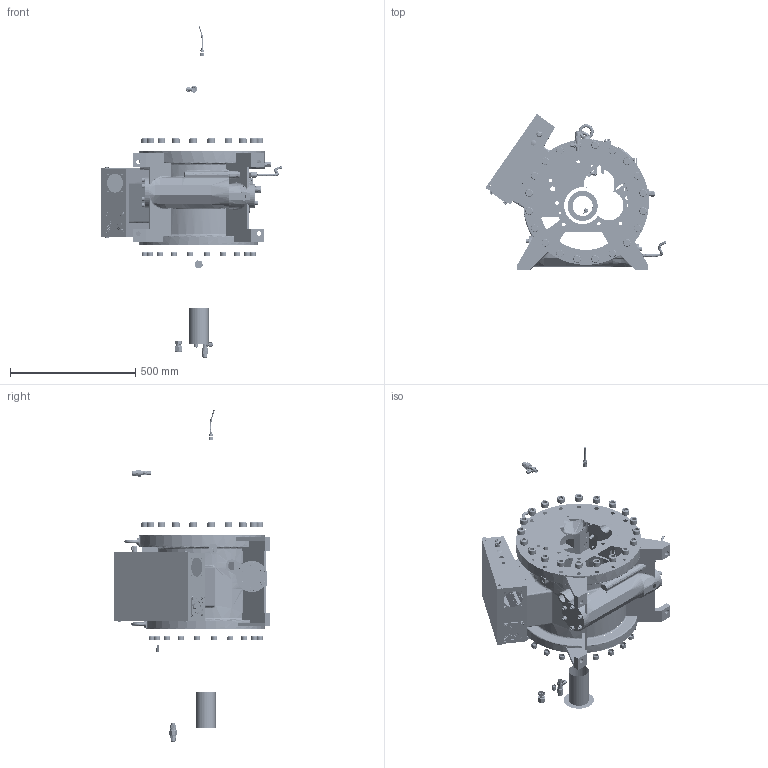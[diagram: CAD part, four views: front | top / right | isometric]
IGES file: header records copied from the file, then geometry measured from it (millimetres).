
Start section: SolidWorks IGES file using analytic representation for surfaces
Global section: file name: \\Datacenterrd1\@研發部\設計一課(冷媒)\(1)-文管中心\(2)-3D文管\(8)-Compressor 3Doutline(Surface)\RC2\RC2-BF\IGS\RC2-300BF outline.IGS; native system: SolidWorks 2013; preprocessor: SolidWorks 2013; author: hedylu; date: 141226.135643; units: centimetre
Bounding box: 721.48 x 622.75 x 1322.94 mm (x, y, z)
Surface area: 2257690.8 mm2 (no closed solid volume)
Topology: 0 solids, 0 shells, 2213 faces, 45645 edges, 45635 vertices
Faces by surface type: bspline 1502, revolution 711
